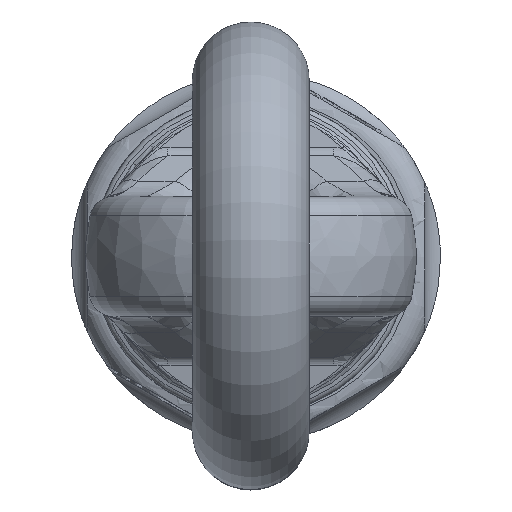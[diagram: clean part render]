
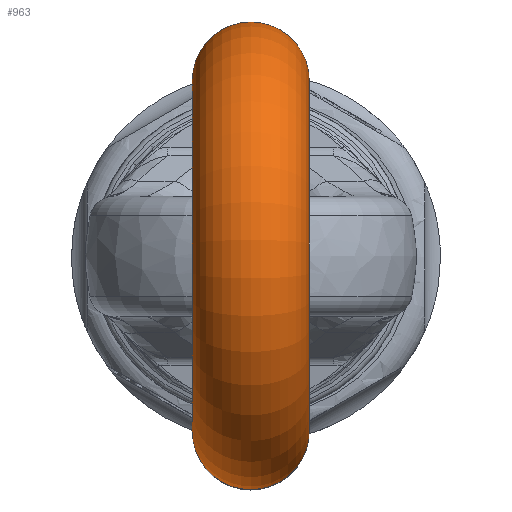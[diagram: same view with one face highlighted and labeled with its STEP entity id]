
A CAD part, top view. The second image highlights one B-rep face of the part: STEP entity #963.
In plain terms, the highlighted toroidal (fillet/blend) face has major radius 67.5 mm and minor radius 22.5 mm.
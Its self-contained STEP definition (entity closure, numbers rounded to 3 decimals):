
#509=TOROIDAL_SURFACE('',#5185,67.5,22.5);
#681=CIRCLE('',#5183,22.5);
#682=CIRCLE('',#5184,22.5);
#963=ADVANCED_FACE('',(#1146,#1147),#509,.T.);
#1146=FACE_BOUND('',#1466,.T.);
#1147=FACE_BOUND('',#1467,.T.);
#1466=EDGE_LOOP('',(#3145));
#1467=EDGE_LOOP('',(#3146));
#3145=ORIENTED_EDGE('',*,*,#4281,.F.);
#3146=ORIENTED_EDGE('',*,*,#4282,.F.);
#3594=VERTEX_POINT('',#13829);
#3595=VERTEX_POINT('',#13831);
#4281=EDGE_CURVE('',#3594,#3594,#681,.T.);
#4282=EDGE_CURVE('',#3595,#3595,#682,.T.);
#5183=AXIS2_PLACEMENT_3D('',#13828,#6162,#6163);
#5184=AXIS2_PLACEMENT_3D('',#13830,#6164,#6165);
#5185=AXIS2_PLACEMENT_3D('',#13832,#6166,#6167);
#6162=DIRECTION('',(0.,0.,-1.));
#6163=DIRECTION('',(-1.,0.,0.));
#6164=DIRECTION('',(0.,0.,-1.));
#6165=DIRECTION('',(-1.,0.,0.));
#6166=DIRECTION('',(-1.,0.,0.));
#6167=DIRECTION('',(0.,-1.,0.));
#13828=CARTESIAN_POINT('',(0.,-67.5,206.233));
#13829=CARTESIAN_POINT('',(-22.5,-67.5,206.233));
#13830=CARTESIAN_POINT('',(0.,67.5,206.233));
#13831=CARTESIAN_POINT('',(-22.5,67.5,206.233));
#13832=CARTESIAN_POINT('',(0.,0.,206.233));
